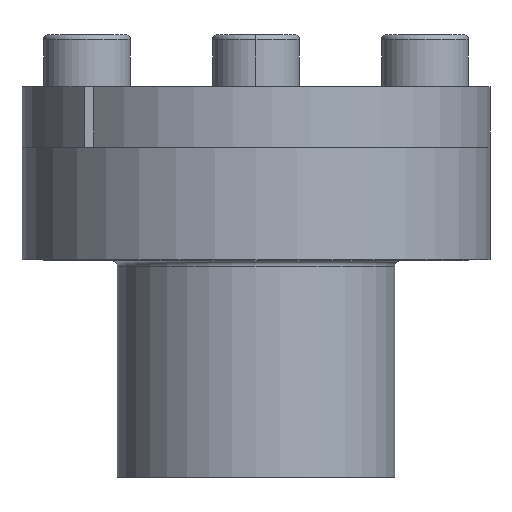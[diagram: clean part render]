
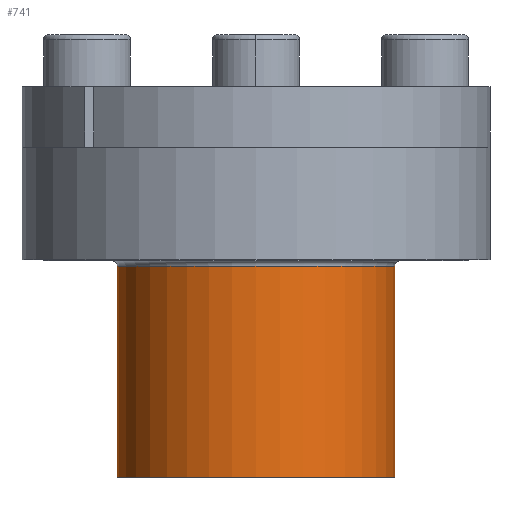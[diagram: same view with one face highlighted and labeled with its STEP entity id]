
A CAD part, front view. The second image highlights one B-rep face of the part: STEP entity #741.
In plain terms, the highlighted cylindrical face has radius 16 mm (diameter 32 mm), a partial arc.
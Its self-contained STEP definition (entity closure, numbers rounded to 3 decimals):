
#16 = CARTESIAN_POINT ( 'NONE',  ( 16., 0., -8. ) ) ;
#111 = EDGE_CURVE ( 'NONE', #7275, #1970, #5843, .T. ) ;
#312 = CARTESIAN_POINT ( 'NONE',  ( 0., 0., -8.6 ) ) ;
#389 = CARTESIAN_POINT ( 'NONE',  ( -16., 0., -8.6 ) ) ;
#531 = DIRECTION ( 'NONE',  ( 0., 0., -1. ) ) ;
#532 = EDGE_LOOP ( 'NONE', ( #1368, #1726, #6879, #569 ) ) ;
#560 = DIRECTION ( 'NONE',  ( -1., 0., 0. ) ) ;
#569 = ORIENTED_EDGE ( 'NONE', *, *, #2291, .F. ) ;
#741 = ADVANCED_FACE ( 'NONE', ( #5855 ), #2276, .T. ) ;
#908 = DIRECTION ( 'NONE',  ( -1., 0., 0. ) ) ;
#1368 = ORIENTED_EDGE ( 'NONE', *, *, #111, .F. ) ;
#1726 = ORIENTED_EDGE ( 'NONE', *, *, #4442, .T. ) ;
#1891 = VERTEX_POINT ( 'NONE', #389 ) ;
#1970 = VERTEX_POINT ( 'NONE', #4516 ) ;
#2276 = CYLINDRICAL_SURFACE ( 'NONE', #4699, 16. ) ;
#2281 = CARTESIAN_POINT ( 'NONE',  ( -16., 0., -33. ) ) ;
#2291 = EDGE_CURVE ( 'NONE', #1970, #6825, #2961, .T. ) ;
#2505 = CARTESIAN_POINT ( 'NONE',  ( 0., 0., -33. ) ) ;
#2961 = CIRCLE ( 'NONE', #3520, 16. ) ;
#3084 = DIRECTION ( 'NONE',  ( -1., 0., 0. ) ) ;
#3520 = AXIS2_PLACEMENT_3D ( 'NONE', #2505, #6493, #3084 ) ;
#3726 = CARTESIAN_POINT ( 'NONE',  ( -16., 0., -8. ) ) ;
#4145 = CARTESIAN_POINT ( 'NONE',  ( 16., 0., -8.6 ) ) ;
#4341 = DIRECTION ( 'NONE',  ( 0., 0., -1. ) ) ;
#4442 = EDGE_CURVE ( 'NONE', #7275, #1891, #6970, .T. ) ;
#4516 = CARTESIAN_POINT ( 'NONE',  ( 16., 0., -33. ) ) ;
#4699 = AXIS2_PLACEMENT_3D ( 'NONE', #7413, #531, #560 ) ;
#5063 = VECTOR ( 'NONE', #7132, 1000. ) ;
#5252 = LINE ( 'NONE', #3726, #5063 ) ;
#5667 = VECTOR ( 'NONE', #7185, 1000. ) ;
#5843 = LINE ( 'NONE', #16, #5667 ) ;
#5855 = FACE_OUTER_BOUND ( 'NONE', #532, .T. ) ;
#6449 = AXIS2_PLACEMENT_3D ( 'NONE', #312, #4341, #908 ) ;
#6493 = DIRECTION ( 'NONE',  ( 0., 0., -1. ) ) ;
#6825 = VERTEX_POINT ( 'NONE', #2281 ) ;
#6879 = ORIENTED_EDGE ( 'NONE', *, *, #7414, .T. ) ;
#6970 = CIRCLE ( 'NONE', #6449, 16. ) ;
#7132 = DIRECTION ( 'NONE',  ( 0., 0., -1. ) ) ;
#7185 = DIRECTION ( 'NONE',  ( 0., 0., -1. ) ) ;
#7275 = VERTEX_POINT ( 'NONE', #4145 ) ;
#7413 = CARTESIAN_POINT ( 'NONE',  ( 0., 0., -8. ) ) ;
#7414 = EDGE_CURVE ( 'NONE', #1891, #6825, #5252, .T. ) ;
